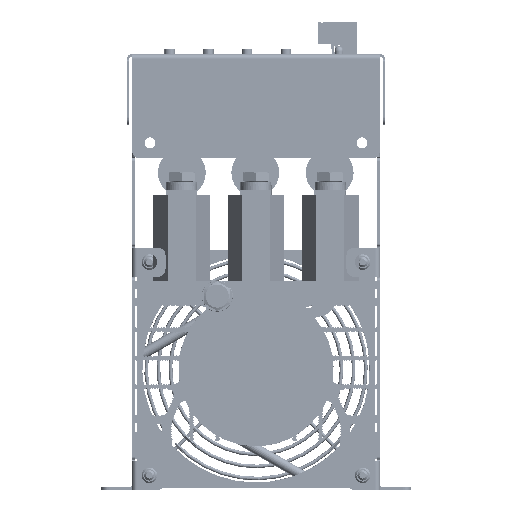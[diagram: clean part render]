
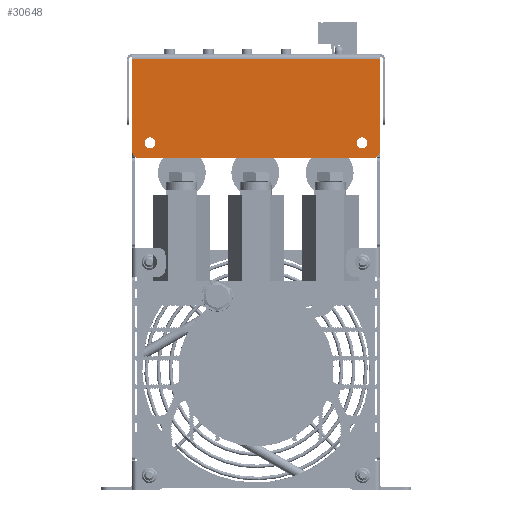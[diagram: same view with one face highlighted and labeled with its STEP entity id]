
A CAD part, front view. The second image highlights one B-rep face of the part: STEP entity #30648.
In plain terms, the highlighted planar face has unit normal (0, -1, 0).
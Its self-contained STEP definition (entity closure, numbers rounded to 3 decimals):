
#30648=ADVANCED_FACE('',(#98599,#98601,#98603),#98605,.F.);
#98599=FACE_BOUND('',#98600,.T.);
#98600=EDGE_LOOP('',(#167755,#167756,#167757,#167758,#167759,#167760));
#98601=FACE_BOUND('',#98602,.T.);
#98602=EDGE_LOOP('',(#167761));
#98603=FACE_BOUND('',#98604,.T.);
#98604=EDGE_LOOP('',(#167762));
#98605=PLANE('',#98606);
#98606=AXIS2_PLACEMENT_3D('',#98607,#98608,#98609);
#98607=CARTESIAN_POINT('',(0.,-97.,217.299));
#98608=DIRECTION('',(0.,1.,0.));
#98609=DIRECTION('',(1.,0.,0.));
#167755=ORIENTED_EDGE('',*,*,#208424,.F.);
#167756=ORIENTED_EDGE('',*,*,#208425,.F.);
#167757=ORIENTED_EDGE('',*,*,#208426,.F.);
#167758=ORIENTED_EDGE('',*,*,#208427,.F.);
#167759=ORIENTED_EDGE('',*,*,#207387,.T.);
#167760=ORIENTED_EDGE('',*,*,#208428,.F.);
#167761=ORIENTED_EDGE('',*,*,#208429,.T.);
#167762=ORIENTED_EDGE('',*,*,#208430,.T.);
#207387=EDGE_CURVE('',#238503,#238504,#238505,.T.);
#208424=EDGE_CURVE('',#240105,#240106,#240107,.F.);
#208425=EDGE_CURVE('',#240108,#240105,#240109,.T.);
#208426=EDGE_CURVE('',#240110,#240108,#240111,.F.);
#208427=EDGE_CURVE('',#238503,#240110,#240112,.T.);
#208428=EDGE_CURVE('',#240106,#238504,#240113,.T.);
#208429=EDGE_CURVE('',#240114,#240114,#240115,.F.);
#208430=EDGE_CURVE('',#240116,#240116,#240117,.F.);
#238503=VERTEX_POINT('',#318475);
#238504=VERTEX_POINT('',#318476);
#238505=LINE('',#318477,#318478);
#240105=VERTEX_POINT('',#325925);
#240106=VERTEX_POINT('',#325926);
#240107=CIRCLE('',#325927,3.);
#240108=VERTEX_POINT('',#325931);
#240109=LINE('',#325932,#325933);
#240110=VERTEX_POINT('',#325935);
#240111=CIRCLE('',#325936,3.);
#240112=LINE('',#325940,#325941);
#240113=LINE('',#325943,#325944);
#240114=VERTEX_POINT('',#325946);
#240115=CIRCLE('',#325947,2.1);
#240116=VERTEX_POINT('',#325951);
#240117=CIRCLE('',#325952,2.1);
#318475=CARTESIAN_POINT('',(48.,-97.,120.1));
#318476=CARTESIAN_POINT('',(-48.,-97.,120.1));
#318477=CARTESIAN_POINT('',(48.,-97.,120.1));
#318478=VECTOR('',#318479,1.);
#318479=DIRECTION('',(-1.,0.,0.));
#325925=CARTESIAN_POINT('',(-45.,-97.,81.8));
#325926=CARTESIAN_POINT('',(-48.,-97.,84.8));
#325927=AXIS2_PLACEMENT_3D('',#325928,#325929,#325930);
#325928=CARTESIAN_POINT('',(-45.,-97.,84.8));
#325929=DIRECTION('',(0.,-1.,0.));
#325930=DIRECTION('',(-1.,0.,0.));
#325931=CARTESIAN_POINT('',(45.,-97.,81.8));
#325932=CARTESIAN_POINT('',(45.,-97.,81.8));
#325933=VECTOR('',#325934,1.);
#325934=DIRECTION('',(-1.,0.,0.));
#325935=CARTESIAN_POINT('',(48.,-97.,84.8));
#325936=AXIS2_PLACEMENT_3D('',#325937,#325938,#325939);
#325937=CARTESIAN_POINT('',(45.,-97.,84.8));
#325938=DIRECTION('',(0.,-1.,0.));
#325939=DIRECTION('',(0.,0.,-1.));
#325940=CARTESIAN_POINT('',(48.,-97.,120.1));
#325941=VECTOR('',#325942,1.);
#325942=DIRECTION('',(0.,0.,-1.));
#325943=CARTESIAN_POINT('',(-48.,-97.,84.8));
#325944=VECTOR('',#325945,1.);
#325945=DIRECTION('',(0.,0.,1.));
#325946=CARTESIAN_POINT('',(-38.9,-97.,87.8));
#325947=AXIS2_PLACEMENT_3D('',#325948,#325949,#325950);
#325948=CARTESIAN_POINT('',(-41.,-97.,87.8));
#325949=DIRECTION('',(0.,-1.,0.));
#325950=DIRECTION('',(1.,0.,0.));
#325951=CARTESIAN_POINT('',(43.1,-97.,87.8));
#325952=AXIS2_PLACEMENT_3D('',#325953,#325954,#325955);
#325953=CARTESIAN_POINT('',(41.,-97.,87.8));
#325954=DIRECTION('',(0.,-1.,0.));
#325955=DIRECTION('',(1.,0.,0.));
